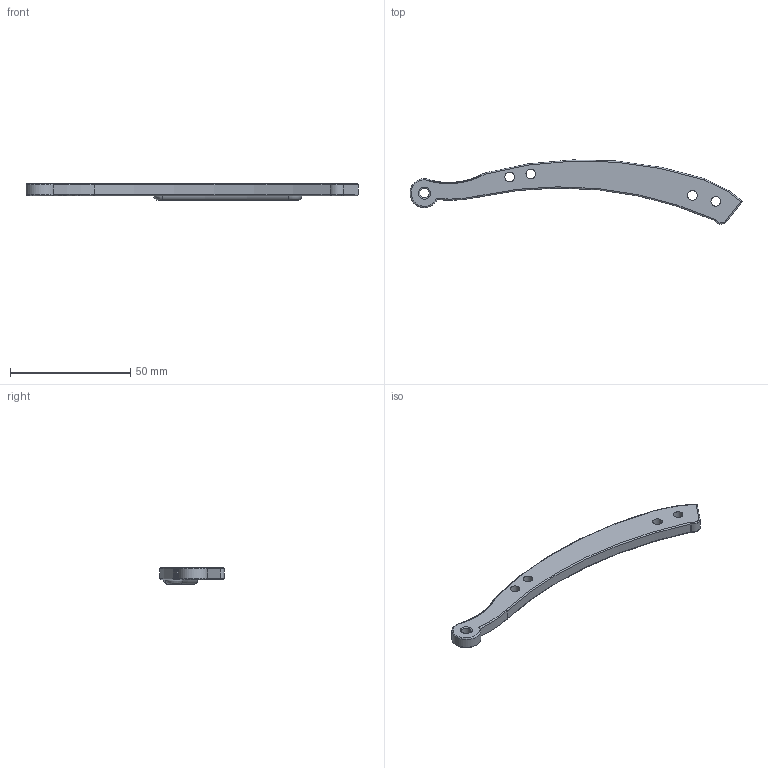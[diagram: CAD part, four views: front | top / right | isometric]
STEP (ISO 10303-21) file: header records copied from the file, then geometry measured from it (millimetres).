
FILE_DESCRIPTION(/* description */ (''),/* implementation_level */ '2;1');
FILE_NAME(/* name */ 'D:\STEP files\handle top_MIR.stp',/* time_stamp */ '2020-08-13T23:49:22+02:00',/* author */ ('Vít Budina'),/* organization */ (''),/* preprocessor_version */ 'ST-DEVELOPER v18',/* originating_system */ 'Autodesk Inventor 2020',/* authorisation */ '');
FILE_SCHEMA (('AUTOMOTIVE_DESIGN { 1 0 10303 214 3 1 1 }'));
Length unit declared in the file: millimetre
Products named in the file (1): handle top_MIR
Bounding box: 138.27 x 26.72 x 7 mm (x, y, z)
Volume: 8501.3 mm3; surface area: 4960 mm2
Topology: 1 solids, 1 shells, 216 faces, 493 edges, 280 vertices
Faces by surface type: torus 77, cylinder 74, plane 56, sphere 8, bspline 1
Full cylindrical faces by diameter (mm): 4 x5
Entity records: 7034 total; most frequent: CARTESIAN_POINT 1930, DIRECTION 1081, ORIENTED_EDGE 986, EDGE_CURVE 493, AXIS2_PLACEMENT_3D 474, VERTEX_POINT 280, CIRCLE 258, EDGE_LOOP 227
